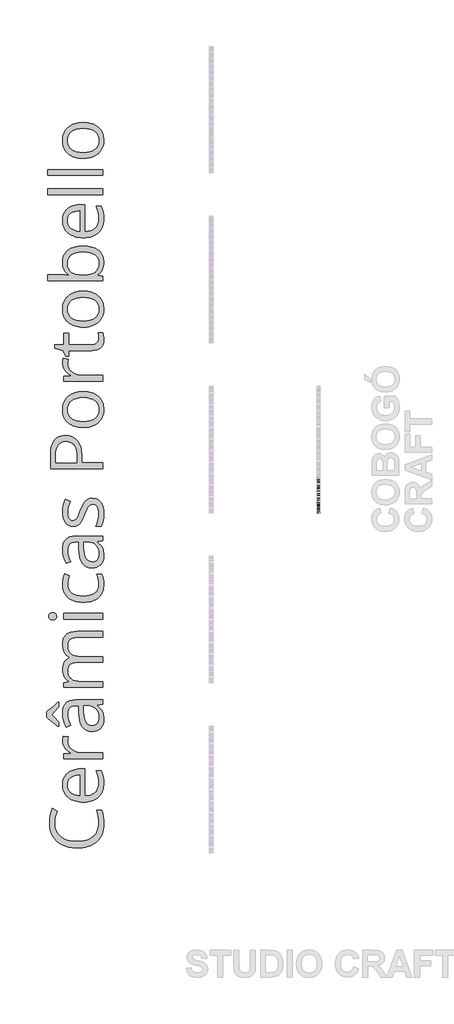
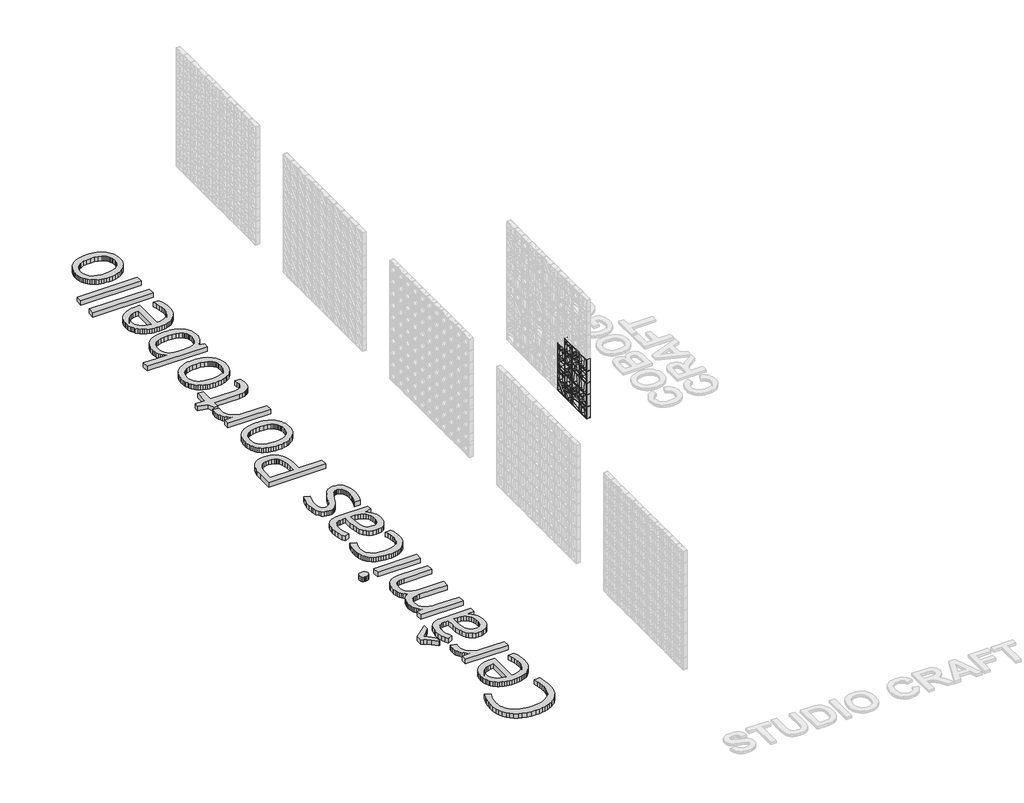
# One storey, part 5 of 8: 20 proxies.
"""IFC4 building model written with IfcOpenShell, lengths in millimetres."""

from ifc_helpers import new_model, si_unit, origin, origin_with_axes, place, context, project, spatial, polyline, outline, extrude, transform, mapped, element, save
from components import plate_7499bc92, plate_dd80494e, plate_f0cbffd6, plate_92f93356, plate_8e8c4e3e, generic_models_fdc848f5, generic_models_516c6d05, generic_models_dbe83256, generic_models_90d806fa, generic_models_d5a960b2

model = new_model("IFC4")

# Units and contexts
model_context = context("Model", 3, world=origin())
ifc_project = project(units=[si_unit("LENGTHUNIT", "METRE", prefix="MILLI")], contexts=[model_context])

# Site, building, storey
site = spatial("IfcSite", under=ifc_project)
building = spatial("IfcBuilding", under=site)
storey = spatial("IfcBuildingStorey", under=building, Name="PORTOBELLO - SHOWROOM", Elevation=0.0)

# Proxies
placement = place(None, origin())
plate_shape = plate_7499bc92(model_context)
element("IfcBuildingElementProxy", 1, Name="PORTOBELLO - STUDIO CRAFT 2 26X26 (COBOGO) : STUDIO CRAFT 2", ObjectType="PORTOBELLO - STUDIO CRAFT 2 26X26 (COBOGO) : STUDIO CRAFT 2", at=placement, inside=storey, context=model_context, shape_type="MappedRepresentation", body=[
    mapped(plate_shape, transform((230423.2866589, -1891.129984, 0.0), x_axis=(0.0, 1.0, 0.0), y_axis=(-1.0, 0.0, 0.0), z_axis=(0.0, 0.0, 1.0))),
])
element("IfcBuildingElementProxy", 2, Name="PORTOBELLO - STUDIO CRAFT 2 26X26 (COBOGO) : STUDIO CRAFT 2", ObjectType="PORTOBELLO - STUDIO CRAFT 2 26X26 (COBOGO) : STUDIO CRAFT 2", at=placement, inside=storey, context=model_context, shape_type="MappedRepresentation", body=[
    mapped(plate_shape, transform((230423.1947921, -1099.129984, 264.0), x_axis=(0.0, 1.0, 0.0), y_axis=(-1.0, 0.0, 0.0), z_axis=(0.0, 0.0, 1.0))),
])
element("IfcBuildingElementProxy", 3, Name="PORTOBELLO - STUDIO CRAFT 2 26X26 (COBOGO) : STUDIO CRAFT 2", ObjectType="PORTOBELLO - STUDIO CRAFT 2 26X26 (COBOGO) : STUDIO CRAFT 2", at=placement, inside=storey, context=model_context, shape_type="MappedRepresentation", body=[
    mapped(plate_shape, transform((230423.1947921, -1099.129984, 792.0), x_axis=(0.0, 1.0, 0.0), y_axis=(-1.0, 0.0, 0.0), z_axis=(0.0, 0.0, 1.0))),
])
element("IfcBuildingElementProxy", 4, Name="PORTOBELLO - STUDIO CRAFT 2 26X26 (COBOGO) : STUDIO CRAFT 2", ObjectType="PORTOBELLO - STUDIO CRAFT 2 26X26 (COBOGO) : STUDIO CRAFT 2", at=placement, inside=storey, context=model_context, shape_type="MappedRepresentation", body=[
    mapped(plate_shape, transform((230423.1947921, -1363.129984, 1056.0), x_axis=(0.0, 1.0, 0.0), y_axis=(-1.0, 0.0, 0.0), z_axis=(0.0, 0.0, 1.0))),
])
plate_2_shape = plate_dd80494e(model_context)
element("IfcBuildingElementProxy", 5, Name="PORTOBELLO - STUDIO CRAFT 3 26X26 (COBOGO) : STUDIO CRAFT 3", ObjectType="PORTOBELLO - STUDIO CRAFT 3 26X26 (COBOGO) : STUDIO CRAFT 3", at=placement, inside=storey, context=model_context, shape_type="MappedRepresentation", body=[
    mapped(plate_2_shape, transform((230423.2044114, -1627.129984, 528.0), x_axis=(0.0, 1.0, 0.0), y_axis=(-1.0, 0.0, 0.0), z_axis=(0.0, 0.0, 1.0))),
])
plate_3_shape = plate_f0cbffd6(model_context)
element("IfcBuildingElementProxy", 6, Name="PORTOBELLO - STUDIO CRAFT 4 26X26 (COBOGO) : STUDIO CRAFT 4", ObjectType="PORTOBELLO - STUDIO CRAFT 4 26X26 (COBOGO) : STUDIO CRAFT 4", at=placement, inside=storey, context=model_context, shape_type="MappedRepresentation", body=[
    mapped(plate_3_shape, transform((230423.1947921, -1363.129984, 0.0), x_axis=(0.0, 1.0, 0.0), y_axis=(-1.0, 0.0, 0.0), z_axis=(0.0, 0.0, 1.0))),
])
element("IfcBuildingElementProxy", 7, Name="PORTOBELLO - STUDIO CRAFT 4 26X26 (COBOGO) : STUDIO CRAFT 4", ObjectType="PORTOBELLO - STUDIO CRAFT 4 26X26 (COBOGO) : STUDIO CRAFT 4", at=placement, inside=storey, context=model_context, shape_type="MappedRepresentation", body=[
    mapped(plate_3_shape, transform((230423.1947921, -1363.129984, 792.0), x_axis=(0.0, 1.0, 0.0), y_axis=(-1.0, 0.0, 0.0), z_axis=(0.0, 0.0, 1.0))),
])
plate_4_shape = plate_92f93356(model_context)
element("IfcBuildingElementProxy", 8, Name="PORTOBELLO - STUDIO CRAFT 5 26X26 (COBOGO) : STUDIO CRAFT 5", ObjectType="PORTOBELLO - STUDIO CRAFT 5 26X26 (COBOGO) : STUDIO CRAFT 5", at=placement, inside=storey, context=model_context, shape_type="MappedRepresentation", body=[
    mapped(plate_4_shape, transform((230423.1947921, -1099.129984, 0.0), x_axis=(0.0, 1.0, 0.0), y_axis=(-1.0, 0.0, 0.0), z_axis=(0.0, 0.0, 1.0))),
])
plate_5_shape = plate_8e8c4e3e(model_context)
element("IfcBuildingElementProxy", 9, Name="PORTOBELLO - STUDIO CRAFT 6 26X26 (COBOGO) : STUDIO CRAFT 6", ObjectType="PORTOBELLO - STUDIO CRAFT 6 26X26 (COBOGO) : STUDIO CRAFT 6", at=placement, inside=storey, context=model_context, shape_type="MappedRepresentation", body=[
    mapped(plate_5_shape, transform((230423.2866589, -1891.129984, 264.0), x_axis=(0.0, 1.0, 0.0), y_axis=(-1.0, 0.0, 0.0), z_axis=(0.0, 0.0, 1.0))),
])
element("IfcBuildingElementProxy", 10, Name="PORTOBELLO - STUDIO CRAFT 6 26X26 (COBOGO) : STUDIO CRAFT 6", ObjectType="PORTOBELLO - STUDIO CRAFT 6 26X26 (COBOGO) : STUDIO CRAFT 6", at=placement, inside=storey, context=model_context, shape_type="MappedRepresentation", body=[
    mapped(plate_5_shape, transform((230423.2044114, -1627.129984, 792.0), x_axis=(0.0, 1.0, 0.0), y_axis=(-1.0, 0.0, 0.0), z_axis=(0.0, 0.0, 1.0))),
])
generic_models_shape = generic_models_fdc848f5(model_context)
element("IfcBuildingElementProxy", 11, Name="PORTOBELLO - STUDIO CRAFT 5 26X26 (COBOGO) : STUDIO CRAFT 5", ObjectType="PORTOBELLO - STUDIO CRAFT 5 26X26 (COBOGO) : STUDIO CRAFT 5", at=placement, inside=storey, context=model_context, shape_type="MappedRepresentation", body=[
    mapped(generic_models_shape, transform((230423.2044114, -1627.129984, 264.0), x_axis=(0.0, 1.0, 0.0), y_axis=(-1.0, 0.0, 0.0), z_axis=(0.0, 0.0, 1.0))),
])
element("IfcBuildingElementProxy", 12, Name="PORTOBELLO - STUDIO CRAFT 5 26X26 (COBOGO) : STUDIO CRAFT 5", ObjectType="PORTOBELLO - STUDIO CRAFT 5 26X26 (COBOGO) : STUDIO CRAFT 5", at=placement, inside=storey, context=model_context, shape_type="MappedRepresentation", body=[
    mapped(generic_models_shape, transform((230423.1947921, -1363.129984, 528.0), x_axis=(0.0, 1.0, 0.0), y_axis=(-1.0, 0.0, 0.0), z_axis=(0.0, 0.0, 1.0))),
])
element("IfcBuildingElementProxy", 13, Name="PORTOBELLO - STUDIO CRAFT 5 26X26 (COBOGO) : STUDIO CRAFT 5", ObjectType="PORTOBELLO - STUDIO CRAFT 5 26X26 (COBOGO) : STUDIO CRAFT 5", at=placement, inside=storey, context=model_context, shape_type="MappedRepresentation", body=[
    mapped(generic_models_shape, transform((230423.2044114, -1627.129984, 1056.0), x_axis=(0.0, 1.0, 0.0), y_axis=(-1.0, 0.0, 0.0), z_axis=(0.0, 0.0, 1.0))),
])
generic_models_2_shape = generic_models_516c6d05(model_context)
element("IfcBuildingElementProxy", 14, Name="PORTOBELLO - STUDIO CRAFT 2 26X26 (COBOGO) : STUDIO CRAFT 2", ObjectType="PORTOBELLO - STUDIO CRAFT 2 26X26 (COBOGO) : STUDIO CRAFT 2", at=placement, inside=storey, context=model_context, shape_type="MappedRepresentation", body=[
    mapped(generic_models_2_shape, transform((230423.1947921, -1099.129984, 528.0), x_axis=(0.0, 1.0, 0.0), y_axis=(-1.0, 0.0, 0.0), z_axis=(0.0, 0.0, 1.0))),
])
element("IfcBuildingElementProxy", 15, Name="PORTOBELLO - STUDIO CRAFT 2 26X26 (COBOGO) : STUDIO CRAFT 2", ObjectType="PORTOBELLO - STUDIO CRAFT 2 26X26 (COBOGO) : STUDIO CRAFT 2", at=placement, inside=storey, context=model_context, shape_type="MappedRepresentation", body=[
    mapped(generic_models_2_shape, transform((230423.2866589, -1891.129984, 792.0), x_axis=(0.0, 1.0, 0.0), y_axis=(-1.0, 0.0, 0.0), z_axis=(0.0, 0.0, 1.0))),
])
generic_models_3_shape = generic_models_dbe83256(model_context)
element("IfcBuildingElementProxy", 16, Name="PORTOBELLO - STUDIO CRAFT 3 26X26 (COBOGO) : STUDIO CRAFT 3", ObjectType="PORTOBELLO - STUDIO CRAFT 3 26X26 (COBOGO) : STUDIO CRAFT 3", at=placement, inside=storey, context=model_context, shape_type="MappedRepresentation", body=[
    mapped(generic_models_3_shape, transform((230423.2044114, -1627.129984, 0.0), x_axis=(0.0, 1.0, 0.0), y_axis=(-1.0, 0.0, 0.0), z_axis=(0.0, 0.0, 1.0))),
])
generic_models_4_shape = generic_models_90d806fa(model_context)
element("IfcBuildingElementProxy", 17, Name="PORTOBELLO - STUDIO CRAFT 2 26X26 (COBOGO) : STUDIO CRAFT 2", ObjectType="PORTOBELLO - STUDIO CRAFT 2 26X26 (COBOGO) : STUDIO CRAFT 2", at=placement, inside=storey, context=model_context, shape_type="MappedRepresentation", body=[
    mapped(generic_models_4_shape, transform((230423.1947921, -1363.129984, 264.0), x_axis=(0.0, 1.0, 0.0), y_axis=(-1.0, 0.0, 0.0), z_axis=(0.0, 0.0, 1.0))),
])
generic_models_5_shape = generic_models_d5a960b2(model_context)
element("IfcBuildingElementProxy", 18, Name="PORTOBELLO - STUDIO CRAFT 3 26X26 (COBOGO) : STUDIO CRAFT 3", ObjectType="PORTOBELLO - STUDIO CRAFT 3 26X26 (COBOGO) : STUDIO CRAFT 3", at=placement, inside=storey, context=model_context, shape_type="MappedRepresentation", body=[
    mapped(generic_models_5_shape, transform((230423.2866589, -1891.129984, 528.0), x_axis=(0.0, 1.0, 0.0), y_axis=(-1.0, 0.0, 0.0), z_axis=(0.0, 0.0, 1.0))),
])
element("IfcBuildingElementProxy", 19, Name="PORTOBELLO - STUDIO CRAFT 3 26X26 (COBOGO) : STUDIO CRAFT 3", ObjectType="PORTOBELLO - STUDIO CRAFT 3 26X26 (COBOGO) : STUDIO CRAFT 3", at=placement, inside=storey, context=model_context, shape_type="MappedRepresentation", body=[
    mapped(generic_models_5_shape, transform((230423.2866589, -1891.129984, 1056.0), x_axis=(0.0, 1.0, 0.0), y_axis=(-1.0, 0.0, 0.0), z_axis=(0.0, 0.0, 1.0))),
])
element("IfcBuildingElementProxy", 20, Name="1200mm OpenSans", ObjectType="1200mm OpenSans", at=placement, inside=storey, context=model_context, shape_type="SweptSolid", body=[
    extrude(outline(polyline([(224358.1516802, -9147.0226962), (224360.2727275, -9195.2068066), (224366.6358694, -9240.7881975), (224377.2411059, -9283.7668691), (224392.088437, -9324.1428212), (224411.1778626, -9361.916054), (224434.5093829, -9397.0865674), (224462.0829978, -9429.6543613), (224493.8987073, -9459.6194359), (224529.4044193, -9486.4916686), (224568.048042, -9509.780937), (224609.8295753, -9529.4872409), (224654.7490193, -9545.6105806), (224702.8063738, -9558.1509558), (224754.0016389, -9567.1083667), (224808.3348147, -9572.4828133), (224865.805901, -9574.2742954), (224924.7473548, -9572.5475996), (224980.2466841, -9567.3675119), (225032.3038887, -9558.7340326), (225080.9189688, -9546.6471614), (225126.0919244, -9531.1068986), (225167.8227554, -9512.1132439), (225206.1114618, -9489.6661976), (225240.9580436, -9463.7657595), (225272.0132182, -9434.6710748), (225298.9277028, -9402.6412888), (225321.7014975, -9367.6764016), (225340.3346023, -9329.776413), (225354.8270171, -9288.9413231), (225365.1787419, -9245.1711319), (225371.3897769, -9198.4658394), (225373.4601218, -9148.8254456), (225370.643326, -9083.7236592), (225362.1929383, -9014.2502056), (225348.1089589, -8940.4050848), (225328.3913877, -8862.1882968), (225445.2095465, -8862.1882968), (225464.2961554, -8928.2139922), (225477.9294475, -9001.5408226), (225486.1094227, -9082.1687879), (225488.8360811, -9170.0978881), (225486.298148, -9234.5461779), (225478.6843488, -9295.2086939), (225465.9946833, -9352.0854364), (225448.2291517, -9405.1764051), (225425.3877539, -9454.4816002), (225397.4704899, -9500.0010217), (225364.4773598, -9541.7346694), (225326.4083634, -9579.6825435), (225283.6634859, -9613.4840941), (225236.6427123, -9642.7787713), (225185.3460425, -9667.566575), (225129.7734766, -9687.8475054), (225069.9250145, -9703.6215623), (225005.8006563, -9714.8887458), (224937.4004019, -9721.6490559), (224864.7242514, -9723.9024926), (224773.8882178, -9719.564627), (224688.866051, -9706.55103), (224609.6577508, -9684.8617017), (224536.2633173, -9654.4966421), (224469.8207361, -9615.9403401), (224411.4679926, -9569.6772846), (224361.2050869, -9515.7074755), (224319.032019, -9454.0309129), (224285.6698886, -9385.6053074), (224261.8397954, -9311.3883695), (224247.5417395, -9231.3800993), (224242.7757209, -9145.5804968), (224246.7643039, -9054.0909665), (224258.7300528, -8968.5505092), (224278.6729676, -8888.9591248), (224306.5930484, -8815.3168133), (224422.3295575, -8874.4469924), (224394.2517362, -8942.5909184), (224374.1961495, -9010.7348443), (224362.1627975, -9078.8787703), (224358.1516802, -9147.0226962)])), origin_with_axes(), (0.0, 0.0, 1.0), 100.0),
    extrude(outline(polyline([(225488.8360811, -8239.1581167), (225486.9093927, -8287.7816472), (225481.1293276, -8333.7799239), (225471.4958857, -8377.1529469), (225458.009067, -8417.9007161), (225440.6688716, -8456.0232315), (225419.4752993, -8491.5204932), (225394.4283504, -8524.3925012), (225365.5280246, -8554.6392553), (225333.2081087, -8581.7649997), (225297.9023891, -8605.2739781), (225259.6108659, -8625.1661906), (225218.3335391, -8641.4416372), (225174.0704086, -8654.1003179), (225126.8214745, -8663.1422327), (225076.5867368, -8668.5673815), (225023.3661954, -8670.3757645), (224969.6189132, -8668.6969541), (224918.7053277, -8663.6605231), (224870.6254388, -8655.2664714), (224825.3792465, -8643.514799), (224782.9667509, -8628.4055059), (224743.387952, -8609.9385921), (224706.6428498, -8588.1140576), (224672.7314442, -8562.9319024), (224642.2677967, -8534.9216842), (224615.8659689, -8504.6129605), (224593.5259608, -8472.0057314), (224575.2477723, -8437.0999968), (224561.0314035, -8399.8957568), (224550.8768543, -8360.3930114), (224544.7841249, -8318.5917605), (224542.753215, -8274.4920042), (224544.5503308, -8233.1470743), (224549.9416781, -8194.0217795), (224558.927257, -8157.1161198), (224571.5070674, -8122.4300954), (224587.6811093, -8089.963706), (224607.4493828, -8059.7169519), (224630.8118879, -8031.6898329), (224657.7686244, -8005.882349), (224687.6717295, -7982.7282869), (224719.87334, -7962.661433), (224754.373456, -7945.6817874), (224791.1720774, -7931.7893502), (224830.2692042, -7920.9841212), (224871.6648364, -7913.2661004), (224915.3589741, -7908.635288), (224961.3516173, -7907.0916839), (225050.4074359, -7907.0916839), (225050.4074359, -8528.6796645), (225124.951122, -8522.1784996), (225189.9402366, -8506.6410535), (225245.3747795, -8482.0673263), (225269.5090866, -8466.3918572), (225291.2547508, -8448.4573178), (225310.5216347, -8428.4270823), (225327.2196007, -8406.4645248), (225352.9087791, -8356.7424439), (225368.3222861, -8299.2910751), (225373.4601218, -8234.1104185), (225369.6518138, -8161.4821535), (225358.2268897, -8089.2595071), (225339.1853496, -8017.4424793), (225312.5271933, -7946.0310701), (225432.2297511, -7946.0310701), (225458.2344107, -8016.5185703), (225475.6760108, -8083.0400218), (225485.5460635, -8154.3387591), (225488.8360811, -8239.1581167)]), holes=[polyline([(224658.1291743, -8275.9342037), (224662.7261852, -8327.4590339), (224676.5172178, -8373.508013), (224699.5022722, -8414.0811409), (224731.6813483, -8449.1784175), (224771.9727966, -8478.2139495), (224819.2949674, -8500.6018431), (224873.6478607, -8516.3420985), (224935.0314766, -8525.4347156), (224935.0314766, -8053.4749322), (224871.8901801, -8057.0804309), (224816.5908434, -8067.8969271), (224769.1334664, -8085.9244208), (224729.5180491, -8111.1629118), (224698.2854164, -8143.09411), (224675.976393, -8181.1997246), (224662.590979, -8225.4797559), (224658.1291743, -8275.9342037)])]), origin_with_axes(), (0.0, 0.0, 1.0), 100.0),
    extrude(outline(polyline([(224542.753215, -7259.9046623), (224545.0066517, -7202.3969576), (224551.7669618, -7151.0186007), (224670.38787, -7170.127744), (224661.1938482, -7223.3088502), (224658.1291743, -7269.6395089), (224663.7740333, -7322.9670885), (224680.7086101, -7372.2610164), (224708.9329048, -7417.5212926), (224748.4469174, -7458.7479171), (224796.3887833, -7493.0564909), (224849.8966379, -7517.5626151), (224908.9704811, -7532.2662896), (224973.610313, -7537.1675144), (225465.7608893, -7537.1675144), (225465.7608893, -7673.4553663), (224565.8284069, -7673.4553663), (224565.8284069, -7560.963806), (224727.3547499, -7545.4601615), (224727.3547499, -7538.9702638), (224685.553499, -7512.2670388), (224648.8450151, -7482.9948961), (224617.2292981, -7451.1538354), (224590.7063481, -7416.7438569), (224569.7268524, -7380.1705792), (224554.7414983, -7341.8396209), (224545.7502858, -7301.7509819), (224542.753215, -7259.9046623)])), origin_with_axes(), (0.0, 0.0, 1.0), 100.0),
    extrude(outline(polyline([(225465.7608893, -6420.5445585), (225334.1601857, -6447.9463489), (225334.1601857, -6454.7967965), (225375.7586273, -6488.8349579), (225410.0559339, -6522.8055162), (225437.0521056, -6556.7084714), (225456.7471424, -6590.5438235), (225470.7860531, -6626.4523374), (225480.8138464, -6666.574778), (225486.8305224, -6710.9111451), (225488.8360811, -6759.4614389), (225484.3630093, -6823.5717132), (225470.9437937, -6880.3357838), (225448.5784344, -6929.7536507), (225417.2669314, -6971.825314), (225377.70785, -7005.4240552), (225330.5997557, -7029.4231561), (225275.9426484, -7043.8226167), (225213.7365282, -7048.6224369), (225147.1869087, -7041.7156534), (225089.0538753, -7020.9953029), (225039.337428, -6986.4613854), (224998.0375668, -6938.1139009), (224965.1542917, -6875.9528494), (224940.6876027, -6799.9782309), (224924.6374998, -6710.1900454), (224917.0039829, -6606.5882929), (224911.9562847, -6451.9123975), (224857.8738038, -6451.9123975), (224810.179816, -6454.7967965), (224769.1334664, -6463.4499934), (224734.7347551, -6477.8719883), (224706.9836821, -6498.0627812), (224685.6098349, -6524.6082656), (224670.3428012, -6558.094335), (224661.182581, -6598.5209895), (224658.1291743, -6645.888229), (224662.4557728, -6704.8832019), (224675.4355682, -6767.5738111), (224697.0685606, -6833.9600564), (224727.3547499, -6904.0419379), (224622.074187, -6946.5868229), (224588.9486675, -6876.0091853), (224563.8453826, -6799.1219249), (224548.0262569, -6718.8995782), (224542.753215, -6638.3166817), (224547.2600884, -6562.1167195), (224560.7807087, -6496.4853755), (224583.3150757, -6441.4226496), (224597.9624143, -6417.8545185), (224614.8631896, -6396.9285419), (224634.2483788, -6378.5489488), (224656.3489593, -6362.6199681), (224681.164931, -6349.1415998), (224708.696294, -6338.1138439), (224771.9051935, -6323.4101694), (224845.975658, -6318.5089446), (225465.7608893, -6318.5089446), (225465.7608893, -6420.5445585)]), holes=[polyline([(225373.4601218, -6732.4201985), (225369.0997218, -6671.1717888), (225356.0185217, -6616.8639643), (225334.2165216, -6569.4967247), (225303.6937215, -6529.0700702), (225265.3289616, -6496.7332535), (225220.0010822, -6473.6355273), (225167.7100835, -6459.7768916), (225108.4559654, -6455.1573463), (225027.332244, -6455.1573463), (225033.101042, -6593.9690473), (225038.4191526, -6670.7887046), (225048.6046865, -6736.1158347), (225063.6576437, -6789.9504375), (225083.5780241, -6832.2925132), (225109.0193245, -6864.3138488), (225140.6350415, -6887.1862313), (225178.425175, -6900.9096609), (225222.3897252, -6905.4841374), (225257.1377191, -6902.63354), (225287.4689772, -6894.0817477), (225313.3834993, -6879.8287605), (225334.8812855, -6859.8745785), (225351.7595264, -6834.8050951), (225363.8154127, -6805.206204), (225371.0489446, -6771.0779051), (225373.4601218, -6732.4201985)])]), origin_with_axes(), (0.0, 0.0, 1.0), 100.0),
    extrude(outline(polyline([(224430.9827545, -6930.3620786), (224331.4709896, -6842.0273598), (224262.245414, -6784.69993), (224213.0303564, -6748.6449427), (224173.5501453, -6724.1275514), (224173.5501453, -6588.2002494), (224214.112006, -6563.5476518), (224265.129813, -6525.6448464), (224334.7159385, -6466.6498735), (224430.9827545, -6378.7207733), (224450.4524476, -6378.7207733), (224450.4524476, -6476.0692389), (224422.7351761, -6514.4227317), (224386.8153951, -6557.3732353), (224290.3683041, -6657.0652751), (224388.0773196, -6757.5685521), (224423.6816196, -6799.6402154), (224450.4524476, -6836.2585618), (224450.4524476, -6930.3620786), (224430.9827545, -6930.3620786)])), origin_with_axes(), (0.0, 0.0, 1.0), 100.0),
    extrude(outline(polyline([(225465.7608893, -4884.9626505), (224875.1801977, -4884.9626505), (224824.3088641, -4887.8470495), (224780.220375, -4896.5002464), (224742.9147303, -4910.9222414), (224712.3919302, -4931.1130342), (224688.6519745, -4957.3881062), (224671.6948633, -4990.0629384), (224661.5205965, -5029.1375309), (224658.1291743, -5074.6118836), (224662.7374524, -5134.2603532), (224676.5622866, -5185.5711069), (224699.6036769, -5228.5441449), (224731.8616233, -5263.179467), (224773.6966757, -5289.8376232), (224825.469384, -5308.8791634), (224887.1797482, -5320.3040875), (224958.8277682, -5324.1123955), (225465.7608893, -5324.1123955), (225465.7608893, -5460.7607973), (224875.1801977, -5460.7607973), (224824.3088641, -5463.6451963), (224780.220375, -5472.2983932), (224742.9147303, -5486.7203881), (224712.3919302, -5506.911181), (224688.6519745, -5533.2313217), (224671.6948633, -5566.0413601), (224661.5205965, -5605.3412963), (224658.1291743, -5651.1311301), (224662.9740632, -5711.1852183), (224677.50873, -5762.6311783), (224701.7331745, -5805.46901), (224717.4790635, -5823.6598778), (224735.6473969, -5839.6987136), (224780.5809248, -5865.8836481), (224837.8632859, -5884.5871727), (224907.49448, -5895.8092875), (224989.4745074, -5899.5499924), (225465.7608893, -5899.5499924), (225465.7608893, -6035.8378443), (224565.8284069, -6035.8378443), (224565.8284069, -5924.7884835), (224681.2043662, -5902.7949413), (224681.2043662, -5896.3050436), (224650.3660849, -5874.8635933), (224623.1107679, -5849.4786288), (224599.4384153, -5820.1501501), (224579.3490271, -5786.8781572), (224563.3383593, -5750.5865591), (224551.9021681, -5712.1992648), (224545.0404533, -5671.7162744), (224542.753215, -5629.1375879), (224545.1193236, -5578.5141323), (224552.2176492, -5532.4651532), (224564.0481919, -5490.9906507), (224580.6109517, -5454.0906246), (224601.9059285, -5421.7650751), (224627.9331225, -5394.0140021), (224658.6925335, -5370.8374056), (224694.1841616, -5352.2352856), (224694.1841616, -5345.7453879), (224661.0361077, -5323.2898911), (224631.5386212, -5296.3049866), (224605.6917022, -5264.7906743), (224583.4953506, -5228.7469542), (224565.6706663, -5189.0977354), (224552.9387489, -5146.7669269), (224545.2995985, -5101.7545287), (224542.753215, -5054.0605408), (224547.6882414, -4982.2547802), (224562.4933206, -4920.0711944), (224573.5971299, -4892.587717), (224587.1684525, -4867.5097832), (224603.2072882, -4844.8373932), (224621.7136372, -4824.5705468), (224642.9353773, -4806.697977), (224667.1203868, -4791.2084164), (224694.2686655, -4778.1018652), (224724.3802134, -4767.3783233), (224793.4931172, -4753.0802674), (224874.459098, -4748.3142488), (225465.7608893, -4748.3142488), (225465.7608893, -4884.9626505)])), origin_with_axes(), (0.0, 0.0, 1.0), 100.0),
    extrude(outline(polyline([(225465.7608893, -4334.4029948), (225465.7608893, -4470.6908467), (224565.8284069, -4470.6908467), (224565.8284069, -4334.4029948), (225465.7608893, -4334.4029948)])), origin_with_axes(), (0.0, 0.0, 1.0), 100.0),
    extrude(outline(polyline([(224311.6407466, -4482.2284427), (224289.4331279, -4480.7862432), (224270.4028549, -4476.4596447), (224254.5499277, -4469.2486472), (224241.8743462, -4459.1532508), (224225.2439833, -4433.19366), (224219.700529, -4401.4652712), (224225.3341208, -4370.9086695), (224242.2348961, -4344.8589411), (224255.0231494, -4334.4480636), (224270.8535422, -4327.0117224), (224289.7260746, -4322.5499178), (224311.6407466, -4321.0626495), (224333.5779529, -4322.5499178), (224352.5180884, -4327.0117224), (224368.4611531, -4334.4480636), (224381.407147, -4344.8589411), (224398.5783347, -4370.9086695), (224404.3020639, -4401.4652712), (224398.5783347, -4433.19366), (224391.4236731, -4446.8945551), (224381.407147, -4459.1532508), (224368.4611531, -4469.2486472), (224352.5180884, -4476.4596447), (224333.5779529, -4480.7862432), (224311.6407466, -4482.2284427)])), origin_with_axes(), (0.0, 0.0, 1.0), 100.0),
    extrude(outline(polyline([(225488.8360811, -3664.5013313), (225486.9291103, -3712.4150292), (225481.2081979, -3757.5457328), (225471.6733438, -3799.8934421), (225458.3245481, -3839.458157), (225441.1618108, -3876.2398776), (225420.1851319, -3910.2386039), (225395.3945114, -3941.4543359), (225366.7899492, -3969.8870735), (225334.6981937, -3995.2382364), (225299.4459933, -4017.2092443), (225261.0333478, -4035.8000971), (225219.4602574, -4051.0107949), (225174.7267221, -4062.8413376), (225126.8327417, -4071.2917252), (225075.7783164, -4076.3619578), (225021.563446, -4078.0520353), (224965.951445, -4076.3366066), (224913.5900263, -4071.1903206), (224864.4791901, -4062.6131771), (224818.6189364, -4050.6051763), (224776.0092651, -4035.166318), (224736.6501763, -4016.2966024), (224700.5416699, -3993.9960294), (224667.6837459, -3968.2645991), (224638.4031528, -3939.3614565), (224613.0266387, -3907.5457471), (224591.5542037, -3872.8174706), (224573.9858478, -3835.1766273), (224560.3215709, -3794.623217), (224550.5613732, -3751.1572398), (224544.7052546, -3704.7786956), (224542.753215, -3655.4875845), (224546.0883014, -3589.9125764), (224556.0935603, -3524.4277057), (224570.6056927, -3466.0636951), (224587.4613992, -3421.8512669), (224700.3135094, -3464.035602), (224683.773284, -3511.8535289), (224670.207595, -3563.7276418), (224661.1487795, -3614.5201052), (224658.1291743, -3659.0930832), (224663.7683997, -3724.0765642), (224680.6860757, -3780.395581), (224708.8822025, -3828.0501337), (224748.35678, -3867.0402223), (224799.1098081, -3897.3658467), (224861.141287, -3919.0270071), (224934.4512166, -3932.0237033), (225019.0395969, -3936.3559353), (225099.6900966, -3932.1307415), (225170.380406, -3919.45516), (225231.1105252, -3898.3291909), (225281.8804542, -3868.7528342), (225303.3444388, -3850.8351956), (225321.9465588, -3830.8838304), (225337.6868141, -3808.8987385), (225350.5652049, -3784.87992), (225360.5817311, -3758.8273749), (225367.7363926, -3730.7411032), (225373.4601218, -3668.4673799), (225370.4179823, -3611.1624845), (225361.2915636, -3553.1815581), (225346.0808659, -3494.5246006), (225324.785889, -3435.1916122), (225443.4067971, -3435.1916122), (225463.2821089, -3483.7306388), (225477.4787601, -3538.1286009), (225485.9967509, -3598.3854984), (225488.8360811, -3664.5013313)])), origin_with_axes(), (0.0, 0.0, 1.0), 100.0),
    extrude(outline(polyline([(225465.7608893, -2659.2882861), (225334.1601857, -2686.6900764), (225334.1601857, -2693.540524), (225375.7586273, -2727.5786854), (225410.0559339, -2761.5492437), (225437.0521056, -2795.4521989), (225456.7471424, -2829.2875511), (225470.7860531, -2865.196065), (225480.8138464, -2905.3185055), (225486.8305224, -2949.6548726), (225488.8360811, -2998.2051664), (225484.3630093, -3062.3154407), (225470.9437937, -3119.0795113), (225448.5784344, -3168.4973782), (225417.2669314, -3210.5690415), (225377.70785, -3244.1677828), (225330.5997557, -3268.1668837), (225275.9426484, -3282.5663442), (225213.7365282, -3287.3661644), (225147.1869087, -3280.4593809), (225089.0538753, -3259.7390304), (225039.337428, -3225.2051129), (224998.0375668, -3176.8576284), (224965.1542917, -3114.6965769), (224940.6876027, -3038.7219584), (224924.6374998, -2948.9337729), (224917.0039829, -2845.3320204), (224911.9562847, -2690.656125), (224857.8738038, -2690.656125), (224810.179816, -2693.540524), (224769.1334664, -2702.1937209), (224734.7347551, -2716.6157158), (224706.9836821, -2736.8065087), (224685.6098349, -2763.3519931), (224670.3428012, -2796.8380625), (224661.182581, -2837.264717), (224658.1291743, -2884.6319565), (224662.4557728, -2943.6269295), (224675.4355682, -3006.3175386), (224697.0685606, -3072.7037839), (224727.3547499, -3142.7856654), (224622.074187, -3185.3305504), (224588.9486675, -3114.7529128), (224563.8453826, -3037.8656524), (224548.0262569, -2957.6433058), (224542.753215, -2877.0604092), (224547.2600884, -2800.860447), (224560.7807087, -2735.229103), (224583.3150757, -2680.1663771), (224597.9624143, -2656.598246), (224614.8631896, -2635.6722694), (224634.2483788, -2617.2926763), (224656.3489593, -2601.3636956), (224681.164931, -2587.8853273), (224708.696294, -2576.8575714), (224771.9051935, -2562.1538969), (224845.975658, -2557.2526721), (225465.7608893, -2557.2526721), (225465.7608893, -2659.2882861)]), holes=[polyline([(225373.4601218, -2971.163926), (225369.0997218, -2909.9155164), (225356.0185217, -2855.6076918), (225334.2165216, -2808.2404522), (225303.6937215, -2767.8137978), (225265.3289616, -2735.476981), (225220.0010822, -2712.3792548), (225167.7100835, -2698.5206191), (225108.4559654, -2693.9010738), (225027.332244, -2693.9010738), (225033.101042, -2832.7127749), (225038.4191526, -2909.5324321), (225048.6046865, -2974.8595622), (225063.6576437, -3028.6941651), (225083.5780241, -3071.0362407), (225109.0193245, -3103.0575763), (225140.6350415, -3125.9299589), (225178.425175, -3139.6533884), (225222.3897252, -3144.2278649), (225257.1377191, -3141.3772675), (225287.4689772, -3132.8254752), (225313.3834993, -3118.572488), (225334.8812855, -3098.618306), (225351.7595264, -3073.5488227), (225363.8154127, -3043.9499315), (225371.0489446, -3009.8216327), (225373.4601218, -2971.163926)])]), origin_with_axes(), (0.0, 0.0, 1.0), 100.0),
    extrude(outline(polyline([(225223.1108249, -1689.7696783), (225283.2663177, -1695.6624152), (225310.5976882, -1703.0283365), (225336.0981413, -1713.3406262), (225359.7676771, -1726.5992844), (225381.6062955, -1742.8043111), (225401.6139967, -1761.9557063), (225419.7907805, -1784.05347), (225449.9980995, -1835.9388501), (225471.574756, -1897.3111988), (225484.5207498, -1968.1705159), (225488.8360811, -2048.5168016), (225485.2756511, -2133.5389685), (225474.5943611, -2208.6910826), (225456.7922112, -2273.9731439), (225431.8692012, -2329.3851525), (225304.2345463, -2329.3851525), (225332.9433299, -2261.6919139), (225354.8918034, -2189.131252), (225368.8180422, -2115.579078), (225373.4601218, -2044.9113029), (225371.319357, -1994.1301068), (225364.8970624, -1949.5909303), (225354.193238, -1911.2937735), (225339.2078839, -1879.2386364), (225319.8283283, -1853.921275), (225295.9418992, -1835.8374454), (225267.5485967, -1824.9871477), (225234.6484208, -1821.3703818), (225208.936708, -1824.2435136), (225185.1629508, -1832.862909), (225163.3271491, -1847.228568), (225143.429303, -1867.3404906), (225123.6441288, -1895.7675946), (225102.1463426, -1935.0787979), (225054.0129346, -2046.3535024), (225009.4850253, -2154.6086017), (224971.0864639, -2226.2678889), (224933.3639334, -2272.8238912), (224912.711186, -2290.9978582), (224890.8641172, -2305.7691358), (224867.3044364, -2317.2053271), (224841.5138533, -2325.3740352), (224813.4923679, -2330.27526), (224783.2399802, -2331.9090016), (224730.4644925, -2326.2754098), (224683.5479403, -2309.3746346), (224642.4903236, -2281.2066758), (224607.2916423, -2241.7715334), (224579.0560803, -2192.5114071), (224558.8878218, -2134.8684962), (224546.7868667, -2068.8428007), (224542.753215, -1994.4343207), (224546.49392, -1921.8060557), (224557.7160347, -1849.9439592), (224576.4195594, -1778.8480312), (224602.6044939, -1708.5182716), (224714.0144046, -1757.5530543), (224689.5646163, -1824.2547808), (224672.1004819, -1887.7115584), (224661.6220012, -1947.9233871), (224658.1291743, -2004.890267), (224660.0558627, -2050.747704), (224665.8359278, -2090.6109993), (224675.4693698, -2124.4801529), (224688.9561884, -2152.355165), (224705.8456965, -2174.1233636), (224725.6872067, -2189.6720768), (224748.480719, -2199.0013048), (224774.2262333, -2202.1110474), (224808.2531276, -2197.4689678), (224836.7816363, -2183.542729), (224861.9299899, -2159.2506813), (224885.8164189, -2123.5111752), (224914.3449276, -2063.028934), (224953.4195201, -1964.5086813), (224983.0296784, -1890.449484), (225012.7299742, -1829.4376852), (225042.5204074, -1781.4732849), (225072.4009781, -1746.5562832), (225104.2645731, -1721.7121435), (225140.0040792, -1703.9663295), (225179.6194965, -1693.3188411), (225223.1108249, -1689.7696783)])), origin_with_axes(), (0.0, 0.0, 1.0), 100.0),
    extrude(outline(polyline([(224609.4549415, -244.6857883), (224652.87585, -246.635011), (224693.7222071, -252.4826793), (224731.9940127, -262.228793), (224767.6912669, -275.8733523), (224800.8139697, -293.416357), (224831.362121, -314.8578073), (224859.3357209, -340.197703), (224884.7347693, -369.4360443), (224907.3395563, -402.3080522), (224926.9303716, -438.548948), (224943.5072154, -478.1587317), (224957.0700875, -521.1374032), (224967.6189881, -567.4849626), (224975.1539171, -617.2014099), (224979.6748745, -670.2867451), (224981.1818603, -726.7409681), (224981.1818603, -868.4370681), (225465.7608893, -868.4370681), (225465.7608893, -1007.9698689), (224265.8509128, -1007.9698689), (224265.8509128, -695.7336791), (224271.2197257, -590.0193297), (224287.3261646, -498.4002269), (224314.1702293, -420.8763706), (224351.7519199, -357.447761), (224400.0712365, -308.1143979), (224459.1281789, -272.8762815), (224528.9227473, -251.7334116), (224609.4549415, -244.6857883)]), holes=[polyline([(224865.805901, -868.4370681), (224865.805901, -742.2446127), (224862.0877304, -655.4872995), (224850.9332188, -581.6196444), (224832.3423659, -520.6416471), (224806.315172, -472.5533079), (224790.3157714, -453.0329124), (224772.0629341, -436.1152363), (224751.5566601, -421.8002797), (224728.7969494, -410.0880424), (224676.5172178, -394.471726), (224615.2237395, -389.2662873), (224559.8680668, -394.1675121), (224512.0614071, -408.8711866), (224471.8037604, -433.3773108), (224439.0951266, -467.6858846), (224413.7777652, -512.3377329), (224395.6939357, -567.8736805), (224384.843638, -634.2937273), (224381.226872, -711.5978735), (224381.226872, -868.4370681), (224865.805901, -868.4370681)])]), origin_with_axes(), (0.0, 0.0, 1.0), 100.0),
    extrude(outline(polyline([(225015.0735483, 762.6905562), (225069.339121, 760.9582267), (225120.5456533, 755.7612383), (225168.6931453, 747.099591), (225213.7815969, 734.9732847), (225255.8110083, 719.3823195), (225294.7813793, 700.3266954), (225330.69271, 677.8064123), (225363.5450003, 651.8214703), (225392.9100974, 622.7887552), (225418.3598482, 591.1251527), (225439.8942527, 556.8306628), (225457.5133109, 519.9052856), (225471.2170229, 480.349021), (225481.0053886, 438.1618691), (225486.878408, 393.3438299), (225488.8360811, 345.8949033), (225485.2418496, 287.2041443), (225474.4591549, 231.9160747), (225456.4879972, 180.0306946), (225431.3283764, 131.5480039), (225399.4535142, 87.4369804), (225361.3366324, 48.6666019), (225316.9777308, 15.2368684), (225266.3768096, -12.8522201), (225210.3789075, -35.0936404), (225149.8290633, -50.9803692), (225084.7272769, -60.5124064), (225015.0735483, -63.6897522), (224960.8192429, -61.9715067), (224909.6465121, -56.8167702), (224861.555356, -48.2255428), (224816.5457746, -36.1978244), (224774.617768, -20.733615), (224735.771336, -1.8329146), (224700.0064787, 20.5042767), (224667.3231961, 46.277959), (224638.1271068, 75.1050481), (224612.8238294, 106.6024596), (224591.4133639, 140.7701936), (224573.8957103, 177.6082502), (224560.2708686, 217.1166292), (224550.5388388, 259.2953307), (224544.699621, 304.1443547), (224542.753215, 351.6637012), (224544.7446897, 397.5971917), (224550.7191138, 441.1138712), (224560.6764872, 482.2137399), (224574.61681, 520.8967978), (224592.5400822, 557.1630447), (224614.4463038, 591.0124808), (224640.3354747, 622.4451061), (224670.207595, 651.4609204), (224703.4767712, 677.5303663), (224739.5571096, 700.1238861), (224778.4486104, 719.2414797), (224820.1512734, 734.8831472), (224864.6650987, 747.0488886), (224911.9900863, 755.7387039), (224962.1262362, 760.9525931), (225015.0735483, 762.6905562)]), holes=[polyline([(225013.9918987, 78.0063478), (225096.5578196, 82.3104119), (225168.6677941, 95.2226042), (225230.3218224, 116.7429248), (225257.2278566, 130.7311331), (225281.5199043, 146.8713735), (225303.0683928, 165.0960429), (225321.7437495, 185.3375381), (225337.5459744, 207.5958591), (225350.4750674, 231.871006), (225360.5310287, 258.1629788), (225367.7138582, 286.4717774), (225373.4601218, 349.1398521), (225367.7363926, 411.8304612), (225360.5817311, 440.1674278), (225350.5652049, 466.4988357), (225337.6868141, 490.8246849), (225321.9465588, 513.1449755), (225303.3444388, 533.4597074), (225281.8804542, 551.7688806), (225257.6616432, 567.9936249), (225230.7950441, 582.0550699), (225169.1184815, 603.6880623), (225096.8507663, 616.6678577), (225013.9918987, 620.9944562), (224931.9780698, 616.6678577), (224860.4427217, 603.6880623), (224799.3858541, 582.0550699), (224772.7868506, 567.9936249), (224748.8074673, 551.7688806), (224727.5547424, 533.4315394), (224709.1357141, 513.0323037), (224693.5503825, 490.5711733), (224680.7987476, 466.0481484), (224670.8808093, 439.4632288), (224663.7965676, 410.8164147), (224658.1291743, 347.3371028), (224663.7176973, 284.7253639), (224670.7033511, 256.4869852), (224680.4832664, 230.2936003), (224693.0574432, 206.1452092), (224708.4258816, 184.041812), (224726.5885814, 163.9834085), (224747.5455427, 145.9699988), (224771.2685977, 130.0410181), (224797.7295782, 116.2359015), (224858.865316, 94.9972606), (224930.9527561, 82.254076), (225013.9918987, 78.0063478)])]), origin_with_axes(), (0.0, 0.0, 1.0), 100.0),
    extrude(outline(polyline([(224542.753215, 1416.3674755), (224545.0066517, 1473.8751802), (224551.7669618, 1525.253537), (224670.38787, 1506.1443938), (224661.1938482, 1452.9632875), (224658.1291743, 1406.6326289), (224663.7740333, 1353.3050493), (224680.7086101, 1304.0111214), (224708.9329048, 1258.7508451), (224748.4469174, 1217.5242206), (224796.3887833, 1183.2156468), (224849.8966379, 1158.7095226), (224908.9704811, 1144.0058481), (224973.610313, 1139.1046233), (225465.7608893, 1139.1046233), (225465.7608893, 1002.8167714), (224565.8284069, 1002.8167714), (224565.8284069, 1115.3083317), (224727.3547499, 1130.8119762), (224727.3547499, 1137.3018739), (224685.553499, 1164.0050989), (224648.8450151, 1193.2772417), (224617.2292981, 1225.1183023), (224590.7063481, 1259.5282808), (224569.7268524, 1296.1015585), (224554.7414983, 1334.4325169), (224545.7502858, 1374.5211558), (224542.753215, 1416.3674755)])), origin_with_axes(), (0.0, 0.0, 1.0), 100.0),
    extrude(outline(polyline([(225373.4601218, 1988.9206734), (225368.0518737, 2059.5884484), (225356.8748277, 2113.6709293), (225463.59759, 2113.6709293), (225473.5127115, 2085.9987266), (225481.6250837, 2047.6903026), (225487.0333317, 2006.3172047), (225488.8360811, 1969.4509802), (225484.5545514, 1907.5941427), (225471.7099622, 1853.9848835), (225450.3023135, 1808.6232026), (225420.3316053, 1771.5091001), (225381.7978376, 1742.6425759), (225334.7010105, 1722.0236301), (225279.0411239, 1709.6522626), (225214.8181778, 1705.5284734), (224681.2043662, 1705.5284734), (224681.2043662, 1575.0094195), (224613.78154, 1575.0094195), (224555.3724606, 1704.8073736), (224358.1516802, 1762.8559032), (224358.1516802, 1842.1768752), (224565.8284069, 1842.1768752), (224565.8284069, 2107.1810316), (224681.2043662, 2107.1810316), (224681.2043662, 1842.1768752), (225206.5255308, 1842.1768752), (225244.5522751, 1844.621854), (225277.8693368, 1851.9567905), (225306.4767158, 1864.1816846), (225330.374412, 1881.2965364), (225349.2244101, 1902.6929179), (225362.6886944, 1927.7624012), (225370.767265, 1956.5049864), (225373.4601218, 1988.9206734)])), origin_with_axes(), (0.0, 0.0, 1.0), 100.0),
    extrude(outline(polyline([(225015.0735483, 3070.2097417), (225069.339121, 3068.4774123), (225120.5456533, 3063.2804239), (225168.6931453, 3054.6187765), (225213.7815969, 3042.4924703), (225255.8110083, 3026.9015051), (225294.7813793, 3007.8458809), (225330.69271, 2985.3255979), (225363.5450003, 2959.3406559), (225392.9100974, 2930.3079407), (225418.3598482, 2898.6443382), (225439.8942527, 2864.3498484), (225457.5133109, 2827.4244712), (225471.2170229, 2787.8682066), (225481.0053886, 2745.6810547), (225486.878408, 2700.8630155), (225488.8360811, 2653.4140888), (225485.2418496, 2594.7233299), (225474.4591549, 2539.4352603), (225456.4879972, 2487.5498802), (225431.3283764, 2439.0671895), (225399.4535142, 2394.956166), (225361.3366324, 2356.1857875), (225316.9777308, 2322.756054), (225266.3768096, 2294.6669655), (225210.3789075, 2272.4255452), (225149.8290633, 2256.5388164), (225084.7272769, 2247.0067792), (225015.0735483, 2243.8294334), (224960.8192429, 2245.5476789), (224909.6465121, 2250.7024154), (224861.555356, 2259.2936428), (224816.5457746, 2271.3213612), (224774.617768, 2286.7855706), (224735.771336, 2305.6862709), (224700.0064787, 2328.0234623), (224667.3231961, 2353.7971446), (224638.1271068, 2382.6242336), (224612.8238294, 2414.1216452), (224591.4133639, 2448.2893792), (224573.8957103, 2485.1274357), (224560.2708686, 2524.6358148), (224550.5388388, 2566.8145163), (224544.699621, 2611.6635403), (224542.753215, 2659.1828868), (224544.7446897, 2705.1163772), (224550.7191138, 2748.6330568), (224560.6764872, 2789.7329255), (224574.61681, 2828.4159833), (224592.5400822, 2864.6822303), (224614.4463038, 2898.5316664), (224640.3354747, 2929.9642916), (224670.207595, 2958.980106), (224703.4767712, 2985.0495519), (224739.5571096, 3007.6430716), (224778.4486104, 3026.7606653), (224820.1512734, 3042.4023328), (224864.6650987, 3054.5680742), (224911.9900863, 3063.2578895), (224962.1262362, 3068.4717787), (225015.0735483, 3070.2097417)]), holes=[polyline([(225013.9918987, 2385.5255334), (225096.5578196, 2389.8295975), (225168.6677941, 2402.7417898), (225230.3218224, 2424.2621103), (225257.2278566, 2438.2503187), (225281.5199043, 2454.3905591), (225303.0683928, 2472.6152284), (225321.7437495, 2492.8567236), (225337.5459744, 2515.1150447), (225350.4750674, 2539.3901916), (225360.5310287, 2565.6821643), (225367.7138582, 2593.9909629), (225373.4601218, 2656.6590377), (225367.7363926, 2719.3496468), (225360.5817311, 2747.6866134), (225350.5652049, 2774.0180213), (225337.6868141, 2798.3438705), (225321.9465588, 2820.6641611), (225303.3444388, 2840.978893), (225281.8804542, 2859.2880662), (225257.6616432, 2875.5128105), (225230.7950441, 2889.5742555), (225169.1184815, 2911.2072479), (225096.8507663, 2924.1870433), (225013.9918987, 2928.5136417), (224931.9780698, 2924.1870433), (224860.4427217, 2911.2072479), (224799.3858541, 2889.5742555), (224772.7868506, 2875.5128105), (224748.8074673, 2859.2880662), (224727.5547424, 2840.950725), (224709.1357141, 2820.5514892), (224693.5503825, 2798.0903589), (224680.7987476, 2773.5673339), (224670.8808093, 2746.9824144), (224663.7965676, 2718.3356003), (224658.1291743, 2654.8562883), (224663.7176973, 2592.2445495), (224670.7033511, 2564.0061708), (224680.4832664, 2537.8127859), (224693.0574432, 2513.6643948), (224708.4258816, 2491.5609975), (224726.5885814, 2471.5025941), (224747.5455427, 2453.4891844), (224771.2685977, 2437.5602037), (224797.7295782, 2423.7550871), (224858.865316, 2402.5164461), (224930.9527561, 2389.7732616), (225013.9918987, 2385.5255334)])]), origin_with_axes(), (0.0, 0.0, 1.0), 100.0),
    extrude(outline(polyline([(224542.753215, 3731.4582083), (224544.6770866, 3775.0030559), (224550.4487014, 3816.0409551), (224560.0680593, 3854.5719059), (224573.5351604, 3890.5959084), (224590.8500047, 3924.1129626), (224612.0125921, 3955.1230685), (224637.0229228, 3983.626226), (224665.8809966, 4009.6224352), (224698.2544316, 4032.8187493), (224733.810846, 4052.9222215), (224772.5502398, 4069.9328518), (224814.4726129, 4083.8506402), (224859.5779653, 4094.6755868), (224907.8662971, 4102.4076915), (224959.3376082, 4107.0469543), (225013.9918987, 4108.5933752), (225068.7560442, 4107.0328703), (225120.3766455, 4102.3513556), (225168.8537026, 4094.548831), (225214.1872155, 4083.6252966), (225256.3771843, 4069.5807523), (225295.4236088, 4052.4151982), (225331.326489, 4032.1286343), (225364.0858251, 4008.7210605), (225393.3241664, 3982.5473932), (225418.6640621, 3953.9625486), (225440.1055124, 3922.9665267), (225457.6485171, 3889.5593275), (225471.2930764, 3853.7409511), (225481.0391901, 3815.5113974), (225486.8868584, 3774.8706665), (225488.8360811, 3731.8187582), (225486.7741865, 3688.4288345), (225480.5885028, 3646.9543319), (225470.2790299, 3607.3952506), (225455.8457678, 3569.7515904), (225437.1309759, 3534.5641763), (225413.9769138, 3502.373833), (225386.3835813, 3473.1805604), (225354.3509786, 3446.9843588), (225354.3509786, 3436.8889623), (225465.7608893, 3408.0449725), (225465.7608893, 3310.335957), (224196.6253372, 3310.335957), (224196.6253372, 3446.6238089), (224497.6844809, 3446.6238089), (224593.771022, 3445.0013345), (224679.4016168, 3440.1339112), (224679.4016168, 3446.6238089), (224647.3746476, 3472.1327124), (224619.617941, 3500.5260149), (224596.131497, 3531.8037163), (224576.9153155, 3565.9658168), (224561.9693965, 3603.0123162), (224551.2937401, 3642.9432146), (224544.8883463, 3685.758512), (224542.753215, 3731.4582083)]), holes=[polyline([(224658.1291743, 3712.3490651), (224663.2219413, 3646.6275836), (224678.5002421, 3590.7986892), (224689.9589678, 3566.5939622), (224703.9640769, 3544.862382), (224720.5155695, 3525.6039486), (224739.6134455, 3508.8186619), (224761.7252932, 3494.2417432), (224787.3187006, 3481.6084137), (224848.9501945, 3462.1725221), (224924.5079272, 3450.5109872), (225013.9918987, 3446.6238089), (225103.7350155, 3450.623659), (225179.709634, 3462.6232095), (225241.9157542, 3482.6224602), (225267.8556275, 3495.6219732), (225290.3533762, 3510.6214113), (225309.8315197, 3527.8235837), (225326.7125774, 3547.4312999), (225340.9965493, 3569.4445597), (225352.6834354, 3593.8633632), (225368.2659502, 3649.9176012), (225373.4601218, 3715.5940139), (225367.634988, 3775.1636132), (225360.3535706, 3801.8978229), (225350.1595863, 3826.598306), (225337.0530351, 3849.2650625), (225321.0339169, 3869.8980923), (225302.1022318, 3888.4973955), (225280.2579797, 3905.0629721), (225228.5754089, 3932.2732203), (225166.7298385, 3951.7091119), (225094.7212687, 3963.3706468), (225012.5496992, 3967.2578251), (224928.8232585, 3963.3706468), (224856.4766731, 3951.7091119), (224795.509943, 3932.2732203), (224745.9230683, 3905.0629721), (224725.3463744, 3888.4466932), (224707.5132397, 3869.695283), (224692.4236642, 3848.8087415), (224680.0776478, 3825.7870688), (224670.4751907, 3800.6302648), (224663.6162927, 3773.3383295), (224658.1291743, 3712.3490651)])]), origin_with_axes(), (0.0, 0.0, 1.0), 100.0),
    extrude(outline(polyline([(225488.8360811, 4729.0997062), (225486.9093927, 4680.4761757), (225481.1293276, 4634.477899), (225471.4958857, 4591.104876), (225458.009067, 4550.3571068), (225440.6688716, 4512.2345914), (225419.4752993, 4476.7373297), (225394.4283504, 4443.8653218), (225365.5280246, 4413.6185676), (225333.2081087, 4386.4928233), (225297.9023891, 4362.9838448), (225259.6108659, 4343.0916323), (225218.3335391, 4326.8161857), (225174.0704086, 4314.157505), (225126.8214745, 4305.1155903), (225076.5867368, 4299.6904414), (225023.3661954, 4297.8820584), (224969.6189132, 4299.5608688), (224918.7053277, 4304.5972998), (224870.6254388, 4312.9913515), (224825.3792465, 4324.743024), (224782.9667509, 4339.8523171), (224743.387952, 4358.3192309), (224706.6428498, 4380.1437653), (224672.7314442, 4405.3259205), (224642.2677967, 4433.3361387), (224615.8659689, 4463.6448624), (224593.5259608, 4496.2520915), (224575.2477723, 4531.1578261), (224561.0314035, 4568.3620661), (224550.8768543, 4607.8648115), (224544.7841249, 4649.6660624), (224542.753215, 4693.7658187), (224544.5503308, 4735.1107486), (224549.9416781, 4774.2360434), (224558.927257, 4811.1417031), (224571.5070674, 4845.8277275), (224587.6811093, 4878.2941169), (224607.4493828, 4908.540871), (224630.8118879, 4936.56799), (224657.7686244, 4962.3754739), (224687.6717295, 4985.529536), (224719.87334, 5005.5963899), (224754.373456, 5022.5760355), (224791.1720774, 5036.4684728), (224830.2692042, 5047.2737018), (224871.6648364, 5054.9917225), (224915.3589741, 5059.6225349), (224961.3516173, 5061.166139), (225050.4074359, 5061.166139), (225050.4074359, 4439.5781584), (225124.951122, 4446.0793233), (225189.9402366, 4461.6167694), (225245.3747795, 4486.1904967), (225269.5090866, 4501.8659657), (225291.2547508, 4519.8005051), (225310.5216347, 4539.8307406), (225327.2196007, 4561.7932981), (225352.9087791, 4611.515379), (225368.3222861, 4668.9667478), (225373.4601218, 4734.1474045), (225369.6518138, 4806.7756694), (225358.2268897, 4878.9983158), (225339.1853496, 4950.8153436), (225312.5271933, 5022.2267528), (225432.2297511, 5022.2267528), (225458.2344107, 4951.7392527), (225475.6760108, 4885.2178011), (225485.5460635, 4813.9190638), (225488.8360811, 4729.0997062)]), holes=[polyline([(224658.1291743, 4692.3236192), (224662.7261852, 4640.798789), (224676.5172178, 4594.7498099), (224699.5022722, 4554.176682), (224731.6813483, 4519.0794054), (224771.9727966, 4490.0438734), (224819.2949674, 4467.6559798), (224873.6478607, 4451.9157244), (224935.0314766, 4442.8231073), (224935.0314766, 4914.7828907), (224871.8901801, 4911.177392), (224816.5908434, 4900.3608958), (224769.1334664, 4882.3334022), (224729.5180491, 4857.0949111), (224698.2854164, 4825.163713), (224675.976393, 4787.0580983), (224662.590979, 4742.778067), (224658.1291743, 4692.3236192)])]), origin_with_axes(), (0.0, 0.0, 1.0), 100.0),
    extrude(outline(polyline([(225465.7608893, 5426.4031601), (225465.7608893, 5290.1153082), (224196.6253372, 5290.1153082), (224196.6253372, 5426.4031601), (225465.7608893, 5426.4031601)])), origin_with_axes(), (0.0, 0.0, 1.0), 100.0),
    extrude(outline(polyline([(225465.7608893, 5864.8318054), (225465.7608893, 5728.5439535), (224196.6253372, 5728.5439535), (224196.6253372, 5864.8318054), (225465.7608893, 5864.8318054)])), origin_with_axes(), (0.0, 0.0, 1.0), 100.0),
    extrude(outline(polyline([(225015.0735483, 6946.8419735), (225069.339121, 6945.109644), (225120.5456533, 6939.9126556), (225168.6931453, 6931.2510083), (225213.7815969, 6919.124702), (225255.8110083, 6903.5337368), (225294.7813793, 6884.4781127), (225330.69271, 6861.9578296), (225363.5450003, 6835.9728876), (225392.9100974, 6806.9401725), (225418.3598482, 6775.27657), (225439.8942527, 6740.9820801), (225457.5133109, 6704.0567029), (225471.2170229, 6664.5004384), (225481.0053886, 6622.3132865), (225486.878408, 6577.4952472), (225488.8360811, 6530.0463206), (225485.2418496, 6471.3555616), (225474.4591549, 6416.0674921), (225456.4879972, 6364.182112), (225431.3283764, 6315.6994213), (225399.4535142, 6271.5883978), (225361.3366324, 6232.8180193), (225316.9777308, 6199.3882857), (225266.3768096, 6171.2991972), (225210.3789075, 6149.0577769), (225149.8290633, 6133.1710482), (225084.7272769, 6123.6390109), (225015.0735483, 6120.4616652), (224960.8192429, 6122.1799106), (224909.6465121, 6127.3346471), (224861.555356, 6135.9258745), (224816.5457746, 6147.953593), (224774.617768, 6163.4178023), (224735.771336, 6182.3185027), (224700.0064787, 6204.655694), (224667.3231961, 6230.4293763), (224638.1271068, 6259.2564654), (224612.8238294, 6290.7538769), (224591.4133639, 6324.921611), (224573.8957103, 6361.7596675), (224560.2708686, 6401.2680465), (224550.5388388, 6443.446748), (224544.699621, 6488.2957721), (224542.753215, 6535.8151186), (224544.7446897, 6581.748609), (224550.7191138, 6625.2652886), (224560.6764872, 6666.3651573), (224574.61681, 6705.0482151), (224592.5400822, 6741.314462), (224614.4463038, 6775.1638981), (224640.3354747, 6806.5965234), (224670.207595, 6835.6123378), (224703.4767712, 6861.6817836), (224739.5571096, 6884.2753034), (224778.4486104, 6903.392897), (224820.1512734, 6919.0345646), (224864.6650987, 6931.200306), (224911.9900863, 6939.8901213), (224962.1262362, 6945.1040104), (225015.0735483, 6946.8419735)]), holes=[polyline([(225013.9918987, 6262.1577651), (225096.5578196, 6266.4618293), (225168.6677941, 6279.3740216), (225230.3218224, 6300.8943421), (225257.2278566, 6314.8825504), (225281.5199043, 6331.0227908), (225303.0683928, 6349.2474602), (225321.7437495, 6369.4889554), (225337.5459744, 6391.7472764), (225350.4750674, 6416.0224233), (225360.5310287, 6442.3143961), (225367.7138582, 6470.6231947), (225373.4601218, 6533.2912695), (225367.7363926, 6595.9818786), (225360.5817311, 6624.3188451), (225350.5652049, 6650.650253), (225337.6868141, 6674.9761023), (225321.9465588, 6697.2963928), (225303.3444388, 6717.6111247), (225281.8804542, 6735.9202979), (225257.6616432, 6752.1450422), (225230.7950441, 6766.2064872), (225169.1184815, 6787.8394796), (225096.8507663, 6800.819275), (225013.9918987, 6805.1458735), (224931.9780698, 6800.819275), (224860.4427217, 6787.8394796), (224799.3858541, 6766.2064872), (224772.7868506, 6752.1450422), (224748.8074673, 6735.9202979), (224727.5547424, 6717.5829568), (224709.1357141, 6697.183721), (224693.5503825, 6674.7225906), (224680.7987476, 6650.1995657), (224670.8808093, 6623.6146462), (224663.7965676, 6594.9678321), (224658.1291743, 6531.4885201), (224663.7176973, 6468.8767813), (224670.7033511, 6440.6384025), (224680.4832664, 6414.4450177), (224693.0574432, 6390.2966266), (224708.4258816, 6368.1932293), (224726.5885814, 6348.1348258), (224747.5455427, 6330.1214162), (224771.2685977, 6314.1924355), (224797.7295782, 6300.3873188), (224858.865316, 6279.1486779), (224930.9527561, 6266.4054933), (225013.9918987, 6262.1577651)])]), origin_with_axes(), (0.0, 0.0, 1.0), 100.0),
])

save(model, "model.ifc")
